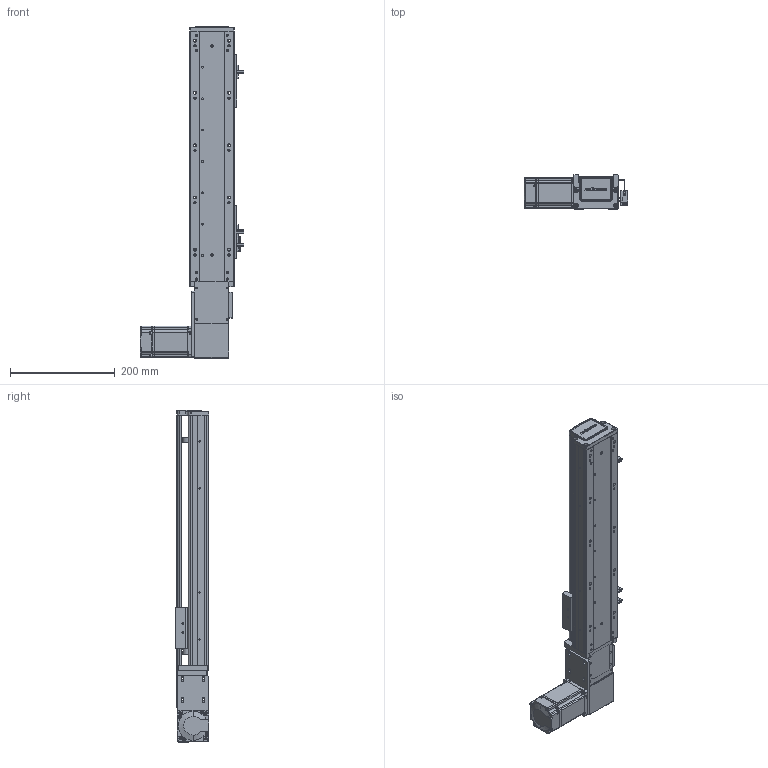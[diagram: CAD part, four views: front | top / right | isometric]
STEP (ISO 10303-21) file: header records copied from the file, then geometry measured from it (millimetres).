
FILE_DESCRIPTION (( 'STEP AP203' ), '1' );
FILE_NAME ('RY80-T-300-LK.SLDASM_300.step', '2021-03-01T01:57:40', ( '盈信电脑' ), ( '东莞市道滘镇水果街19号' ), 'SwSTEP 2.0', 'SolidWorks 2012', '' );
FILE_SCHEMA (( 'CONFIG_CONTROL_DESIGN' ));
Products named in the file (19): RY80-T-300-LK.SLDASM_300; RY80-T-M4蹟翐; RY80-T萇儂假蚾啣; RY80-T肮祭謫俋欶; 1; 侂狟200W萇儂; RY80-T翋肮祭謫裔啣; 滅袉蝶18-10; RY80-T粣創揤踡輸; RY80-T肮祭湍揤輸2; RY80-T-翋肮祭謫釱; RY80-T肮祭湍揤輸1; RY80俋离覜茼え; 672嫖萇羲壽假蚾釱; RY80-T-300-LK倰第奻裔啣; RY80-T綴裔啣; 覜茼ん672; RY80-T肮祭謫臏賑輸; RY80-T-300-LK倰第菁釱
Assembly tree (24 placements, depth 3):
  RY80-T-300-LK.SLDASM_300
    RY80-T-300-LK倰第菁釱
    RY80-T肮祭謫臏賑輸
    RY80-T-300-LK倰第奻裔啣
    RY80-T綴裔啣
    672嫖萇羲壽假蚾釱  x2
    覜茼ん672  x3
    RY80俋离覜茼え
    RY80-T-翋肮祭謫釱
    RY80-T肮祭湍揤輸1
    RY80-T肮祭湍揤輸2
    RY80-T粣創揤踡輸
    RY80-T翋肮祭謫裔啣  x2
    滅袉蝶18-10  x2
    侂狟200W萇儂
      1
    RY80-T肮祭謫俋欶
    RY80-T萇儂假蚾啣
    RY80-T-M4蹟翐  x2
Bounding box: 198.7 x 65 x 635 mm (x, y, z)
Volume: 1272217 mm3; surface area: 501060.6 mm2
Topology: 23 solids, 23 shells, 2365 faces, 6499 edges, 4221 vertices
Faces by surface type: plane 1303, cylinder 860, cone 146, bspline 56
Entity records: 73231 total; most frequent: CARTESIAN_POINT 17221, ORIENTED_EDGE 11442, DIRECTION 10830, EDGE_CURVE 5721, VERTEX_POINT 3762, LINE 3616, VECTOR 3616, AXIS2_PLACEMENT_3D 3607
